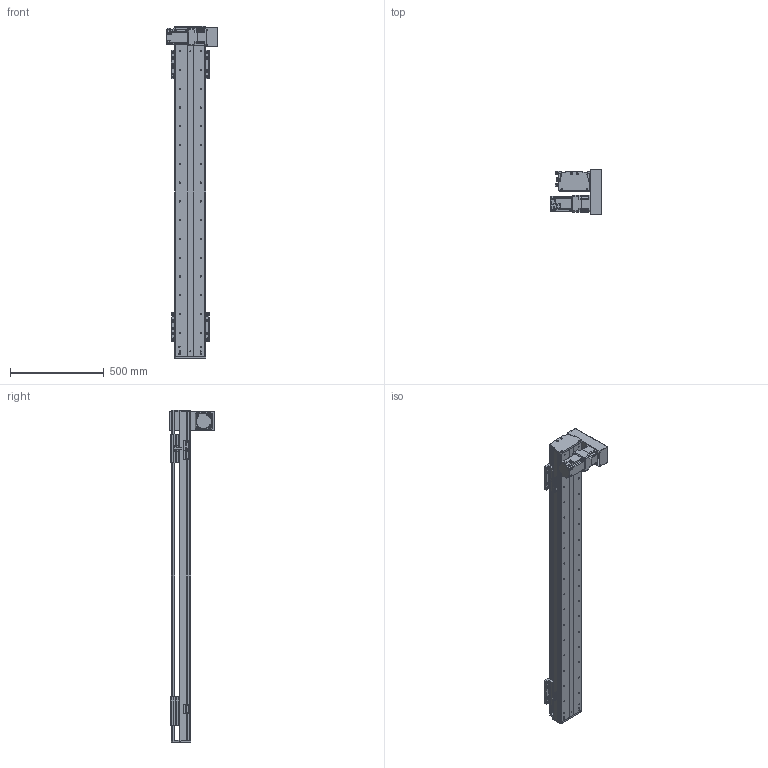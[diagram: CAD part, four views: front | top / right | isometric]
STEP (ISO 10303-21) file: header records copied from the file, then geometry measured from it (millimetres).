
FILE_DESCRIPTION(/* description */ (''),/* implementation_level */ '2;1');
FILE_NAME(/* name */ 'C:\Users\PC\Desktop\3D도면\STEP\새 폴더\DSB165-DR7G-W1400-L.stp',/* time_stamp */ '2018-06-25T15:59:48+09:00',/* author */ ('PC'),/* organization */ (''),/* preprocessor_version */ 'ST-DEVELOPER v16.5',/* originating_system */ 'Autodesk Inventor 2017',/* authorisation */ '');
FILE_SCHEMA (('AUTOMOTIVE_DESIGN { 1 0 10303 214 3 1 1 }'));
Length unit declared in the file: millimetre
Products named in the file (12): DSB165-DL7G-W1400-R_MIR; DSB165-BASE-L_MIR; hg-kr73__MIR; ab0901-p0401300102_MIR; 11-DSB165 BELT COVER_MIR; 12-DSB165-REAR COVER_MIR; 14-DSB165-FRONT COVER_MIR; DSB165-UP COVER_MIR; DSB165-TABLE(MSB20S)_MIR; DSR165-SENSOR DOG_MIR; SENSOR BRACKET(EE-SX674A)_MIR; pm-y65_step_MIR
Assembly tree (16 placements, depth 2):
  DSB165-DL7G-W1400-R_MIR
    DSB165-BASE-L_MIR
    hg-kr73__MIR
    ab0901-p0401300102_MIR
    11-DSB165 BELT COVER_MIR
    12-DSB165-REAR COVER_MIR
    14-DSB165-FRONT COVER_MIR
    DSB165-UP COVER_MIR
    DSB165-TABLE(MSB20S)_MIR  x2
    DSR165-SENSOR DOG_MIR
    pm-y65_step_MIR  x3
    SENSOR BRACKET(EE-SX674A)_MIR  x3
Bounding box: 270 x 242 x 1770 mm (x, y, z)
Volume: 10696543 mm3; surface area: 2487228.8 mm2
Topology: 17 solids, 17 shells, 1681 faces, 4514 edges, 2972 vertices
Faces by surface type: plane 921, cylinder 626, cone 122, sphere 8, torus 4
Full cylindrical faces by diameter (mm): 2.459 x20, 3.5 x6, 4.134 x42, 4.5 x18, 5 x27, 5.5 x36, 5.9 x4, 6 x4, 6.6 x14, 6.647 x50, 6.8 x1, 7 x4, 7.6 x4, 8.4 x1, 8.5 x24, 8.7 x1, 9.5 x32, 11 x6, 14 x16, 19 x1, 22 x1, 24 x1, 25 x1, 28 x1, 67 x1, 70 x2, 80 x1
Entity records: 36424 total; most frequent: DIRECTION 6314, CARTESIAN_POINT 6111, ORIENTED_EDGE 5562, EDGE_CURVE 2781, AXIS2_PLACEMENT_3D 2327, VERTEX_POINT 1986, EDGE_LOOP 1759, LINE 1660
